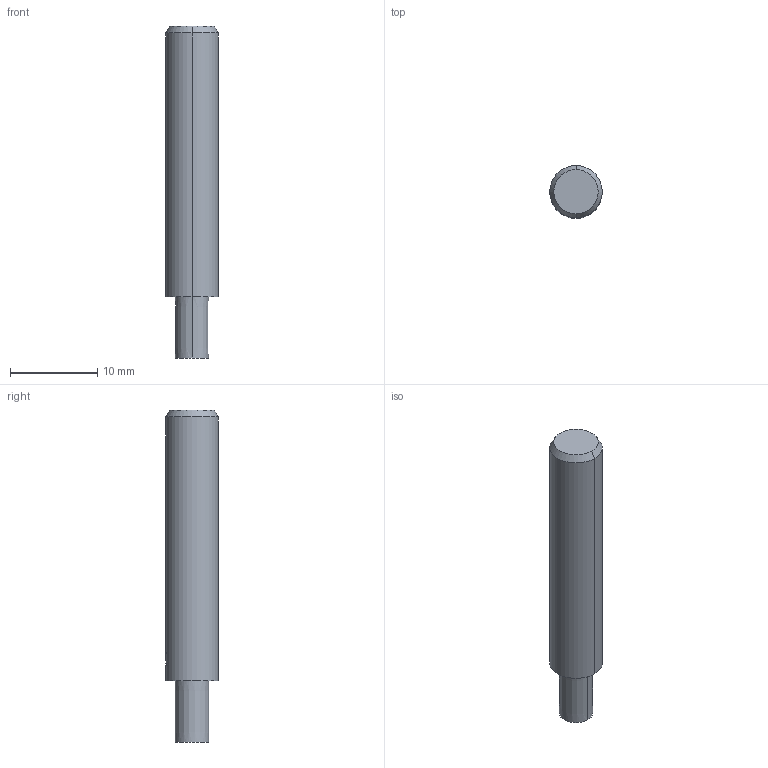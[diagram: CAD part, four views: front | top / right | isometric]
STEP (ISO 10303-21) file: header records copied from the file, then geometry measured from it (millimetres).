
FILE_DESCRIPTION(('no description'),'unknown implementation level');
FILE_NAME('solidpDPOVjGZuf5s4hiS_uQyHf0D0dk_1.STP',' ',('CIMSOURCE GmbH'),('CADClick - KiM GmbH - www.kimweb.de'),'unknown preprocess','ACIS','unknown authorization');
FILE_SCHEMA(('automotive_design'));
Length unit declared in the file: millimetre
Products named in the file (2): NOCUT; CUT
Bounding box: 6 x 6 x 38 mm (x, y, z)
Volume: 952.4 mm3; surface area: 741.2 mm2
Topology: 2 solids, 2 shells, 23 faces, 55 edges, 36 vertices
Faces by surface type: cylinder 10, plane 9, cone 4
Entity records: 1560 total; most frequent: CARTESIAN_POINT 336, STYLED_ITEM 116, PRESENTATION_STYLE_ASSIGNMENT 116, COLOUR_RGB 116, DIRECTION 115, ORIENTED_EDGE 110, EDGE_CURVE 55, CURVE_STYLE 55
